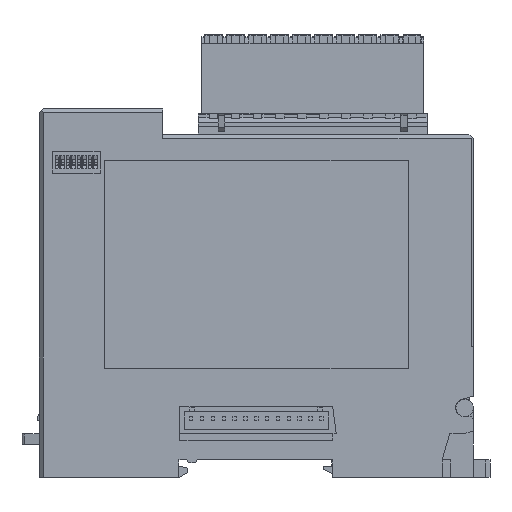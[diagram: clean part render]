
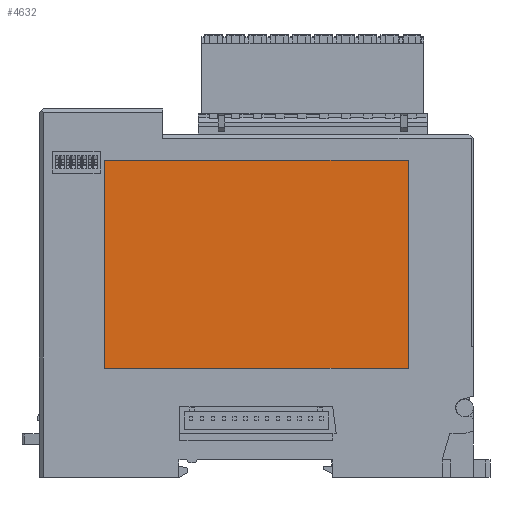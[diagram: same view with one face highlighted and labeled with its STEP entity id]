
A CAD part, left-side view. The second image highlights one B-rep face of the part: STEP entity #4632.
In plain terms, the highlighted planar face has unit normal (-1, 0, 0).
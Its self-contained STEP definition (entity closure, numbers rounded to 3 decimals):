
#175 = CARTESIAN_POINT ( 'NONE',  ( -14.7, 35.01, -17.46 ) ) ;
#4632 = ADVANCED_FACE ( 'NONE', ( #30249 ), #60819, .T. ) ;
#8084 = CARTESIAN_POINT ( 'NONE',  ( -14.7, 35.01, -17.46 ) ) ;
#13785 = VECTOR ( 'NONE', #68064, 1000. ) ;
#14423 = CARTESIAN_POINT ( 'NONE',  ( -14.7, -35., -17.46 ) ) ;
#22329 = EDGE_CURVE ( 'NONE', #67492, #85003, #83129, .T. ) ;
#22711 = DIRECTION ( 'NONE',  ( 0., 0., 1. ) ) ;
#24667 = CARTESIAN_POINT ( 'NONE',  ( -14.7, 35.01, -17.46 ) ) ;
#26722 = ORIENTED_EDGE ( 'NONE', *, *, #43589, .T. ) ;
#28284 = EDGE_CURVE ( 'NONE', #73647, #50082, #54762, .T. ) ;
#28856 = LINE ( 'NONE', #35888, #98505 ) ;
#30249 = FACE_OUTER_BOUND ( 'NONE', #38816, .T. ) ;
#35888 = CARTESIAN_POINT ( 'NONE',  ( -14.7, 35.01, 30.55 ) ) ;
#38296 = DIRECTION ( 'NONE',  ( 0., -1., 0. ) ) ;
#38816 = EDGE_LOOP ( 'NONE', ( #43796, #72886, #26722, #99158 ) ) ;
#40759 = VECTOR ( 'NONE', #38296, 1000. ) ;
#41304 = EDGE_CURVE ( 'NONE', #50082, #67492, #69353, .T. ) ;
#43589 = EDGE_CURVE ( 'NONE', #85003, #73647, #28856, .T. ) ;
#43796 = ORIENTED_EDGE ( 'NONE', *, *, #41304, .T. ) ;
#45561 = CARTESIAN_POINT ( 'NONE',  ( -14.7, 35.01, 30.55 ) ) ;
#47232 = DIRECTION ( 'NONE',  ( 0., 0., -1. ) ) ;
#50082 = VERTEX_POINT ( 'NONE', #8084 ) ;
#53186 = CARTESIAN_POINT ( 'NONE',  ( -14.7, -35., 30.55 ) ) ;
#54762 = LINE ( 'NONE', #24667, #83341 ) ;
#60406 = AXIS2_PLACEMENT_3D ( 'NONE', #67830, #91400, #22711 ) ;
#60819 = PLANE ( 'NONE',  #60406 ) ;
#67492 = VERTEX_POINT ( 'NONE', #78024 ) ;
#67830 = CARTESIAN_POINT ( 'NONE',  ( -14.7, 0., 0. ) ) ;
#68064 = DIRECTION ( 'NONE',  ( 0., 0., 1. ) ) ;
#69353 = LINE ( 'NONE', #175, #40759 ) ;
#72886 = ORIENTED_EDGE ( 'NONE', *, *, #22329, .T. ) ;
#73647 = VERTEX_POINT ( 'NONE', #45561 ) ;
#78024 = CARTESIAN_POINT ( 'NONE',  ( -14.7, -35., -17.46 ) ) ;
#83129 = LINE ( 'NONE', #14423, #13785 ) ;
#83341 = VECTOR ( 'NONE', #47232, 1000. ) ;
#85003 = VERTEX_POINT ( 'NONE', #53186 ) ;
#91400 = DIRECTION ( 'NONE',  ( -1., 0., 0. ) ) ;
#98048 = DIRECTION ( 'NONE',  ( 0., 1., 0. ) ) ;
#98505 = VECTOR ( 'NONE', #98048, 1000. ) ;
#99158 = ORIENTED_EDGE ( 'NONE', *, *, #28284, .T. ) ;
